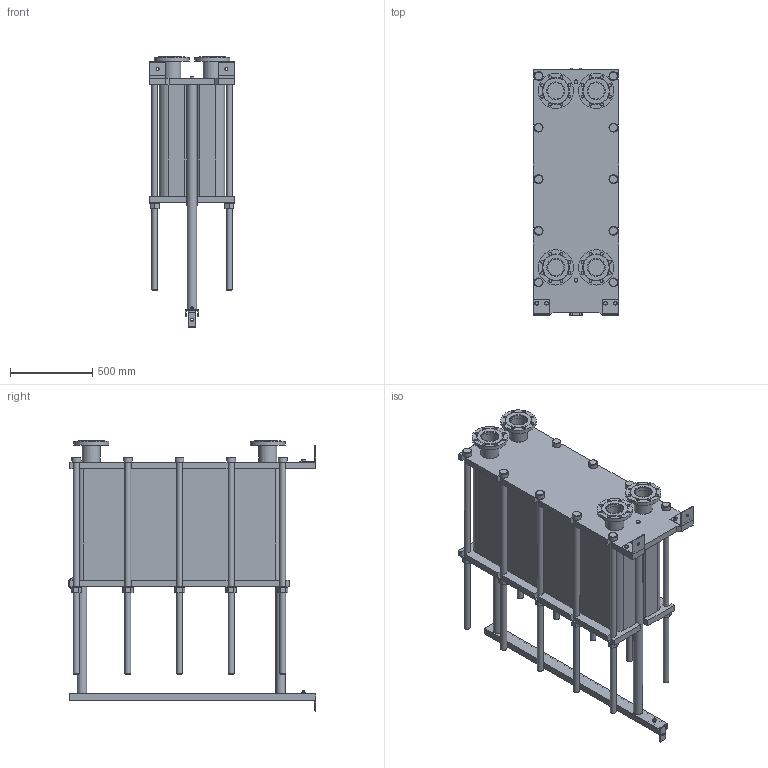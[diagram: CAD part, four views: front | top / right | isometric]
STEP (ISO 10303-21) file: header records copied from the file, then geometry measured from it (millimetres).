
FILE_DESCRIPTION(/* description */ (''),/* implementation_level */ '2;1');
FILE_NAME(/* name */ 'C:\Users\zhuro\Desktop\ENCO\TO\ЭН-04\ЭН-0,5-04-197-1.stp',/* time_stamp */ '2022-06-06T11:02:24+03:00',/* author */ ('zhuro'),/* organization */ (''),/* preprocessor_version */ 'ST-DEVELOPER v18.1',/* originating_system */ 'Autodesk Inventor 2022',/* authorisation */ '');
FILE_SCHEMA (('AUTOMOTIVE_DESIGN { 1 0 10303 214 3 1 1 }'));
Length unit declared in the file: millimetre
Products named in the file (1): ЭН-0,5-04-197-1
Bounding box: 520 x 1510 x 1648.5 mm (x, y, z)
Volume: 416086725.1 mm3; surface area: 10488301.1 mm2
Topology: 45 solids, 45 shells, 668 faces, 1611 edges, 1048 vertices
Faces by surface type: plane 457, cylinder 166, cone 39, torus 6
Full cylindrical faces by diameter (mm): 8 x4, 10 x2, 16 x8, 18 x35, 36 x25, 40 x2, 42 x1, 45 x4, 54 x10, 57 x2, 60 x10, 68 x2, 100 x4, 110 x8, 215 x4
Entity records: 23607 total; most frequent: CARTESIAN_POINT 7348, DIRECTION 3371, ORIENTED_EDGE 3142, EDGE_CURVE 1571, AXIS2_PLACEMENT_3D 1199, VERTEX_POINT 1044, LINE 973, VECTOR 973
